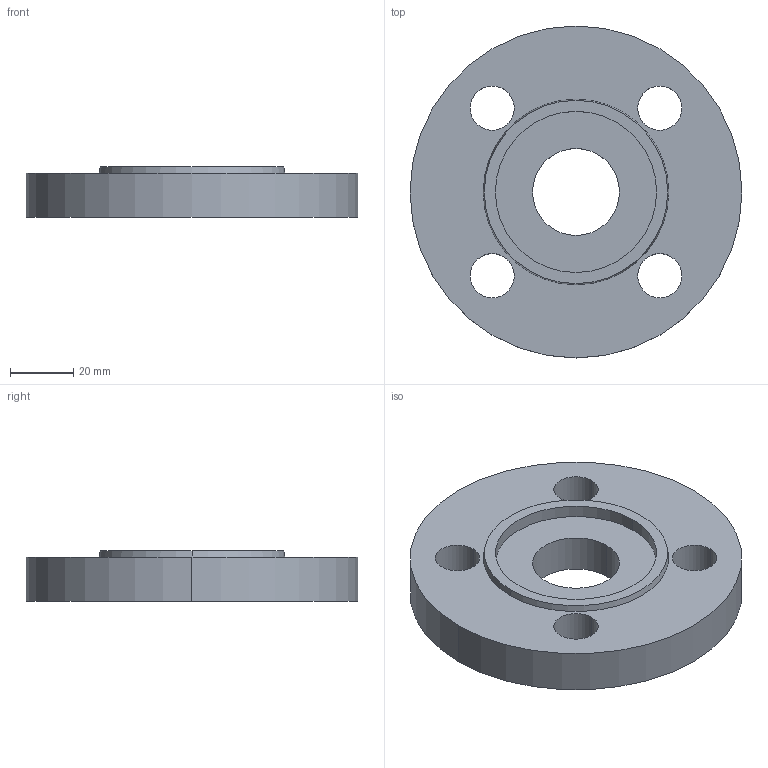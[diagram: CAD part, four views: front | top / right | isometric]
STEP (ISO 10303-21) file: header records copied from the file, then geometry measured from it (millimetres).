
FILE_DESCRIPTION (( 'STEP AP214' ), '1' );
FILE_NAME ('PN40 DN20 Type 01 - Type F Face.STEP', '2018-12-29T18:30:10', ( '' ), ( '' ), 'SwSTEP 2.0', 'SolidWorks 2019', '' );
FILE_SCHEMA (( 'AUTOMOTIVE_DESIGN' ));
Length unit declared in the file: millimetre
Products named in the file (1): PN40 DN20 Type 01 - Type F Face
Bounding box: 105 x 105 x 16 mm (x, y, z)
Volume: 102655.6 mm3; surface area: 23965 mm2
Topology: 1 solids, 1 shells, 20 faces, 48 edges, 32 vertices
Faces by surface type: cylinder 14, plane 4, cone 2
Entity records: 658 total; most frequent: DIRECTION 122, CARTESIAN_POINT 101, ORIENTED_EDGE 96, AXIS2_PLACEMENT_3D 53, EDGE_CURVE 48, CIRCLE 32, EDGE_LOOP 32, VERTEX_POINT 32
